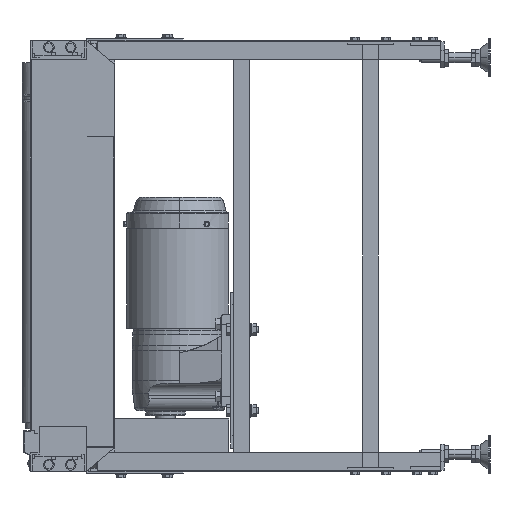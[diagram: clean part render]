
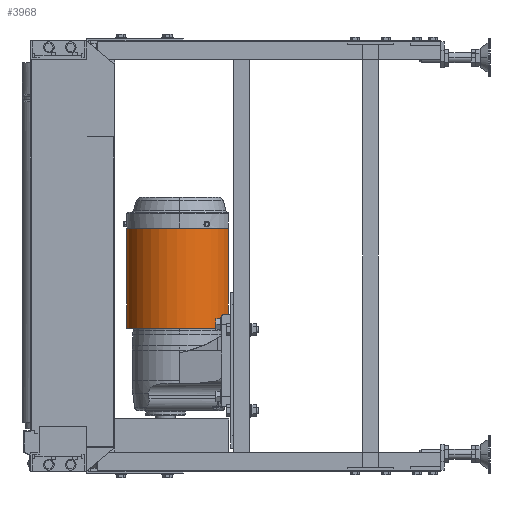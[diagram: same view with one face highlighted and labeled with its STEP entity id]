
A CAD part, left-side view. The second image highlights one B-rep face of the part: STEP entity #3968.
In plain terms, the highlighted cylindrical face has radius 85 mm (diameter 170 mm), a partial arc.
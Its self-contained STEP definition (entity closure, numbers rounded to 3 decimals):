
#3968=ADVANCED_FACE('',(#32123),#32122,.T.);
#32122=CYLINDRICAL_SURFACE('',#51913,85.);
#32123=FACE_OUTER_BOUND('',#51914,.T.);
#51910=CARTESIAN_POINT('',(2840.,-252.8,-56.7));
#51911=DIRECTION('',(0.,0.,-1.));
#51912=DIRECTION('',(0.731,-0.682,0.));
#51913=AXIS2_PLACEMENT_3D('',#51910,#51911,#51912);
#51914=EDGE_LOOP('',(#68279,#68280,#68281,#68282));
#68279=ORIENTED_EDGE('',*,*,#77424,.F.);
#68280=ORIENTED_EDGE('',*,*,#77456,.F.);
#68281=ORIENTED_EDGE('',*,*,#77441,.T.);
#68282=ORIENTED_EDGE('',*,*,#77532,.T.);
#77424=EDGE_CURVE('',#124402,#124409,#124410,.T.);
#77441=EDGE_CURVE('',#124526,#124519,#124527,.T.);
#77456=EDGE_CURVE('',#124526,#124402,#124623,.T.);
#77532=EDGE_CURVE('',#124519,#124409,#125110,.T.);
#124402=VERTEX_POINT('',#160453);
#124409=VERTEX_POINT('',#160457);
#124410=LINE('',#160458,#160459);
#124519=VERTEX_POINT('',#160521);
#124526=VERTEX_POINT('',#160525);
#124527=LINE('',#160526,#160527);
#124623=CIRCLE('',#160582,85.);
#125110=CIRCLE('',#160867,85.);
#160453=CARTESIAN_POINT('',(2916.,-214.734,-136.7));
#160457=CARTESIAN_POINT('',(2916.,-214.734,23.3));
#160458=CARTESIAN_POINT('',(2916.,-214.734,-136.7));
#160459=VECTOR('',#160460,160.);
#160460=DIRECTION('',(0.,0.,1.));
#160521=CARTESIAN_POINT('',(2806.221,-330.8,23.3));
#160525=CARTESIAN_POINT('',(2806.221,-330.8,-136.7));
#160526=CARTESIAN_POINT('',(2806.221,-330.8,-136.7));
#160527=VECTOR('',#160528,160.);
#160528=DIRECTION('',(0.,0.,1.));
#160579=CARTESIAN_POINT('',(2840.,-252.8,-136.7));
#160580=DIRECTION('',(0.,0.,-1.));
#160581=DIRECTION('',(-0.397,-0.918,0.));
#160582=AXIS2_PLACEMENT_3D('',#160579,#160580,#160581);
#160864=CARTESIAN_POINT('',(2840.,-252.8,23.3));
#160865=DIRECTION('',(0.,0.,-1.));
#160866=DIRECTION('',(-0.397,-0.918,0.));
#160867=AXIS2_PLACEMENT_3D('',#160864,#160865,#160866);
